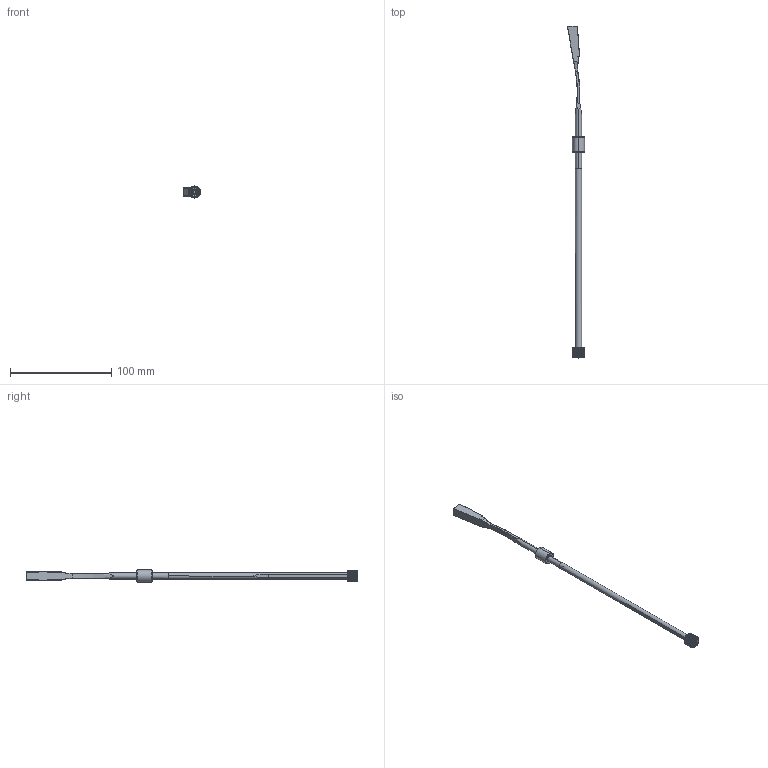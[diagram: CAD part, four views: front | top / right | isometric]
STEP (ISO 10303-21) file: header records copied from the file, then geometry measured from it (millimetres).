
FILE_DESCRIPTION (( 'STEP AP214' ), '1' );
FILE_NAME ('PX060830-325.Abierta.STEP', '2020-02-10T09:48:36', ( '' ), ( '' ), 'SwSTEP 2.0', 'SolidWorks 2018', '' );
FILE_SCHEMA (( 'AUTOMOTIVE_DESIGN' ));
Length unit declared in the file: millimetre
Products named in the file (8): 8PX060830 Rosca Mecha abierta; JT ﾘ6X1,5; 9AX060184 rectificado plano; PX060830-325.Abierta; 9PX060830-325_cerrada; 9CS061215; 9TP0610HX; 9TP0610HX-1
Assembly tree (7 placements, depth 3):
  PX060830-325.Abierta
    9CS061215
    9TP0610HX
      9TP0610HX-1
      JT ﾘ6X1,5
    9PX060830-325_cerrada
      8PX060830 Rosca Mecha abierta
      9AX060184 rectificado plano
Bounding box: 16.98 x 328.36 x 12 mm (x, y, z)
Volume: 11827.1 mm3; surface area: 9136 mm2
Topology: 5 solids, 5 shells, 398 faces, 1110 edges, 725 vertices
Faces by surface type: plane 210, cylinder 135, cone 29, bspline 20, torus 4
Entity records: 15346 total; most frequent: CARTESIAN_POINT 5464, ORIENTED_EDGE 2216, DIRECTION 1741, EDGE_CURVE 1108, VERTEX_POINT 725, AXIS2_PLACEMENT_3D 681, B_SPLINE_CURVE_WITH_KNOTS 424, EDGE_LOOP 409
